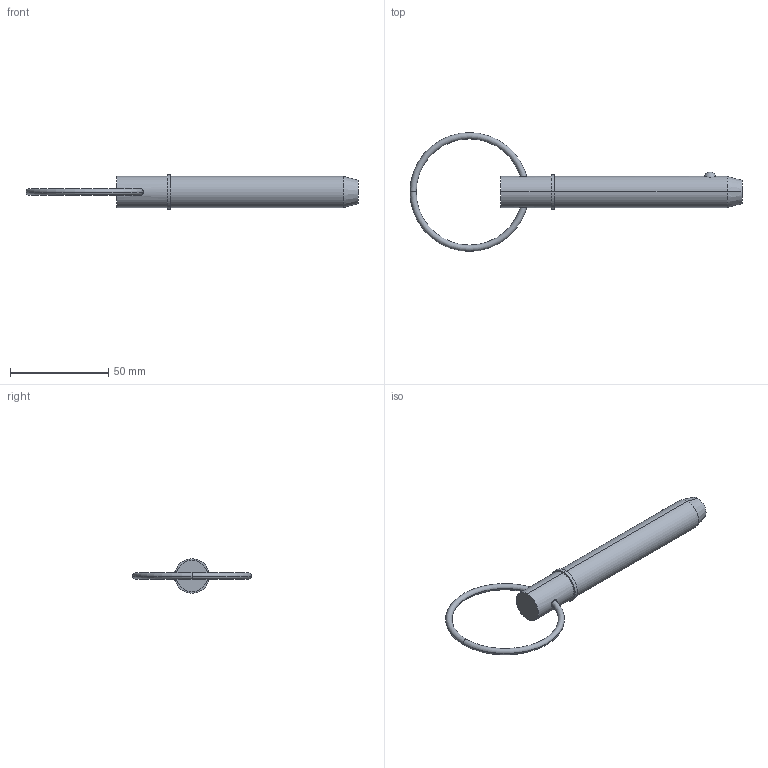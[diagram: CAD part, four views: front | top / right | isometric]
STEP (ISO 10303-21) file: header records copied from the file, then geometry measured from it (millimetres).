
FILE_DESCRIPTION (( 'STEP AP203' ), '1' );
FILE_NAME ('33014.W6230.step', '2024-11-04T08:33:44', ( '' ), ( '' ), 'SwSTEP 2.0', 'SolidWorks 2019', '' );
FILE_SCHEMA (( 'CONFIG_CONTROL_DESIGN' ));
Length unit declared in the file: millimetre
Products named in the file (3): Part2_33014.W6230; Part1_33014.W6230; 33014.W6230
Assembly tree (2 placements, depth 2):
  33014.W6230
    Part1_33014.W6230
    Part2_33014.W6230
Bounding box: 168.58 x 60.33 x 17.47 mm (x, y, z)
Volume: 25264.3 mm3; surface area: 8461.2 mm2
Topology: 2 solids, 2 shells, 22 faces, 43 edges, 26 vertices
Faces by surface type: torus 8, cylinder 6, plane 4, sphere 2, cone 2
Entity records: 1047 total; most frequent: CARTESIAN_POINT 270, DIRECTION 120, ORIENTED_EDGE 86, AXIS2_PLACEMENT_3D 56, EDGE_CURVE 43, CIRCLE 29, EDGE_LOOP 27, PERSON_AND_ORGANIZATION 26
